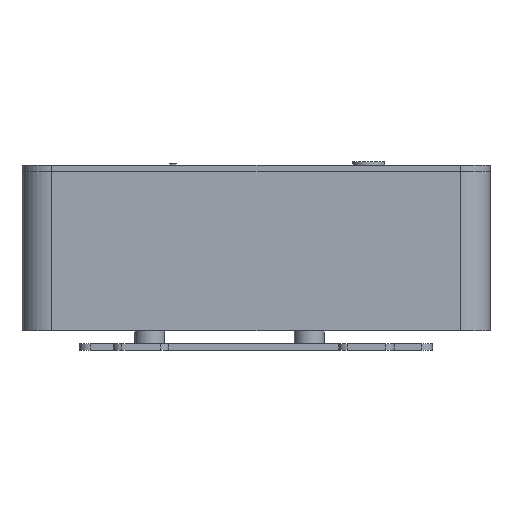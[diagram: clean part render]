
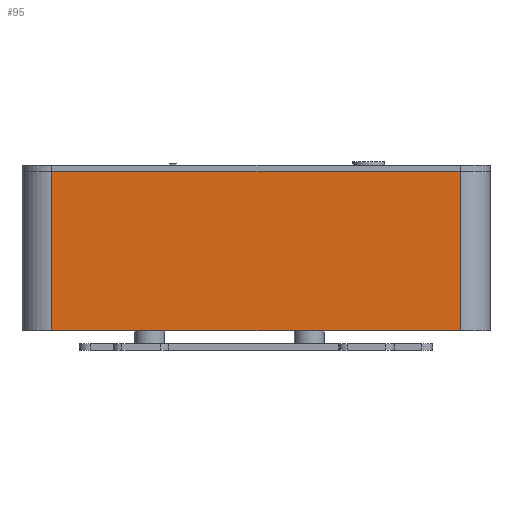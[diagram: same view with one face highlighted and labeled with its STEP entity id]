
A CAD part, left-side view. The second image highlights one B-rep face of the part: STEP entity #95.
In plain terms, the highlighted planar face has unit normal (-1, 0, 0).
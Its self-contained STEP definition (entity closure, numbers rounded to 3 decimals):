
#95 = ADVANCED_FACE('',(#96),#110,.F.);
#96 = FACE_BOUND('',#97,.F.);
#97 = EDGE_LOOP('',(#98,#133,#161,#189));
#98 = ORIENTED_EDGE('',*,*,#99,.F.);
#99 = EDGE_CURVE('',#100,#102,#104,.T.);
#100 = VERTEX_POINT('',#101);
#101 = CARTESIAN_POINT('',(0.,14.,75.));
#102 = VERTEX_POINT('',#103);
#103 = CARTESIAN_POINT('',(0.,206.,75.));
#104 = SURFACE_CURVE('',#105,(#109,#121),.PCURVE_S1.);
#105 = LINE('',#106,#107);
#106 = CARTESIAN_POINT('',(0.,0.,75.));
#107 = VECTOR('',#108,1.);
#108 = DIRECTION('',(0.,1.,0.));
#109 = PCURVE('',#110,#115);
#110 = PLANE('',#111);
#111 = AXIS2_PLACEMENT_3D('',#112,#113,#114);
#112 = CARTESIAN_POINT('',(0.,0.,0.));
#113 = DIRECTION('',(1.,0.,0.));
#114 = DIRECTION('',(0.,0.,1.));
#115 = DEFINITIONAL_REPRESENTATION('',(#116),#120);
#116 = LINE('',#117,#118);
#117 = CARTESIAN_POINT('',(75.,0.));
#118 = VECTOR('',#119,1.);
#119 = DIRECTION('',(0.,-1.));
#120 = ( GEOMETRIC_REPRESENTATION_CONTEXT(2) 
PARAMETRIC_REPRESENTATION_CONTEXT() REPRESENTATION_CONTEXT('2D SPACE',''
  ) );
#121 = PCURVE('',#122,#127);
#122 = PLANE('',#123);
#123 = AXIS2_PLACEMENT_3D('',#124,#125,#126);
#124 = CARTESIAN_POINT('',(0.,0.,75.));
#125 = DIRECTION('',(0.,0.,1.));
#126 = DIRECTION('',(1.,0.,0.));
#127 = DEFINITIONAL_REPRESENTATION('',(#128),#132);
#128 = LINE('',#129,#130);
#129 = CARTESIAN_POINT('',(0.,0.));
#130 = VECTOR('',#131,1.);
#131 = DIRECTION('',(0.,1.));
#132 = ( GEOMETRIC_REPRESENTATION_CONTEXT(2) 
PARAMETRIC_REPRESENTATION_CONTEXT() REPRESENTATION_CONTEXT('2D SPACE',''
  ) );
#133 = ORIENTED_EDGE('',*,*,#134,.F.);
#134 = EDGE_CURVE('',#135,#100,#137,.T.);
#135 = VERTEX_POINT('',#136);
#136 = CARTESIAN_POINT('',(0.,14.,0.));
#137 = SURFACE_CURVE('',#138,(#142,#149),.PCURVE_S1.);
#138 = LINE('',#139,#140);
#139 = CARTESIAN_POINT('',(0.,14.,0.));
#140 = VECTOR('',#141,1.);
#141 = DIRECTION('',(0.,0.,1.));
#142 = PCURVE('',#110,#143);
#143 = DEFINITIONAL_REPRESENTATION('',(#144),#148);
#144 = LINE('',#145,#146);
#145 = CARTESIAN_POINT('',(0.,-14.));
#146 = VECTOR('',#147,1.);
#147 = DIRECTION('',(1.,0.));
#148 = ( GEOMETRIC_REPRESENTATION_CONTEXT(2) 
PARAMETRIC_REPRESENTATION_CONTEXT() REPRESENTATION_CONTEXT('2D SPACE',''
  ) );
#149 = PCURVE('',#150,#155);
#150 = CYLINDRICAL_SURFACE('',#151,14.);
#151 = AXIS2_PLACEMENT_3D('',#152,#153,#154);
#152 = CARTESIAN_POINT('',(14.,14.,0.));
#153 = DIRECTION('',(0.,0.,1.));
#154 = DIRECTION('',(-1.,-0.,0.));
#155 = DEFINITIONAL_REPRESENTATION('',(#156),#160);
#156 = LINE('',#157,#158);
#157 = CARTESIAN_POINT('',(0.,0.));
#158 = VECTOR('',#159,1.);
#159 = DIRECTION('',(0.,1.));
#160 = ( GEOMETRIC_REPRESENTATION_CONTEXT(2) 
PARAMETRIC_REPRESENTATION_CONTEXT() REPRESENTATION_CONTEXT('2D SPACE',''
  ) );
#161 = ORIENTED_EDGE('',*,*,#162,.T.);
#162 = EDGE_CURVE('',#135,#163,#165,.T.);
#163 = VERTEX_POINT('',#164);
#164 = CARTESIAN_POINT('',(0.,206.,0.));
#165 = SURFACE_CURVE('',#166,(#170,#177),.PCURVE_S1.);
#166 = LINE('',#167,#168);
#167 = CARTESIAN_POINT('',(0.,0.,0.));
#168 = VECTOR('',#169,1.);
#169 = DIRECTION('',(0.,1.,0.));
#170 = PCURVE('',#110,#171);
#171 = DEFINITIONAL_REPRESENTATION('',(#172),#176);
#172 = LINE('',#173,#174);
#173 = CARTESIAN_POINT('',(0.,0.));
#174 = VECTOR('',#175,1.);
#175 = DIRECTION('',(0.,-1.));
#176 = ( GEOMETRIC_REPRESENTATION_CONTEXT(2) 
PARAMETRIC_REPRESENTATION_CONTEXT() REPRESENTATION_CONTEXT('2D SPACE',''
  ) );
#177 = PCURVE('',#178,#183);
#178 = PLANE('',#179);
#179 = AXIS2_PLACEMENT_3D('',#180,#181,#182);
#180 = CARTESIAN_POINT('',(0.,0.,0.));
#181 = DIRECTION('',(0.,0.,1.));
#182 = DIRECTION('',(1.,0.,0.));
#183 = DEFINITIONAL_REPRESENTATION('',(#184),#188);
#184 = LINE('',#185,#186);
#185 = CARTESIAN_POINT('',(0.,0.));
#186 = VECTOR('',#187,1.);
#187 = DIRECTION('',(0.,1.));
#188 = ( GEOMETRIC_REPRESENTATION_CONTEXT(2) 
PARAMETRIC_REPRESENTATION_CONTEXT() REPRESENTATION_CONTEXT('2D SPACE',''
  ) );
#189 = ORIENTED_EDGE('',*,*,#190,.T.);
#190 = EDGE_CURVE('',#163,#102,#191,.T.);
#191 = SURFACE_CURVE('',#192,(#196,#203),.PCURVE_S1.);
#192 = LINE('',#193,#194);
#193 = CARTESIAN_POINT('',(0.,206.,0.));
#194 = VECTOR('',#195,1.);
#195 = DIRECTION('',(0.,0.,1.));
#196 = PCURVE('',#110,#197);
#197 = DEFINITIONAL_REPRESENTATION('',(#198),#202);
#198 = LINE('',#199,#200);
#199 = CARTESIAN_POINT('',(0.,-206.));
#200 = VECTOR('',#201,1.);
#201 = DIRECTION('',(1.,0.));
#202 = ( GEOMETRIC_REPRESENTATION_CONTEXT(2) 
PARAMETRIC_REPRESENTATION_CONTEXT() REPRESENTATION_CONTEXT('2D SPACE',''
  ) );
#203 = PCURVE('',#204,#209);
#204 = CYLINDRICAL_SURFACE('',#205,14.);
#205 = AXIS2_PLACEMENT_3D('',#206,#207,#208);
#206 = CARTESIAN_POINT('',(14.,206.,0.));
#207 = DIRECTION('',(0.,0.,1.));
#208 = DIRECTION('',(-1.,-0.,0.));
#209 = DEFINITIONAL_REPRESENTATION('',(#210),#214);
#210 = LINE('',#211,#212);
#211 = CARTESIAN_POINT('',(-0.,0.));
#212 = VECTOR('',#213,1.);
#213 = DIRECTION('',(-0.,1.));
#214 = ( GEOMETRIC_REPRESENTATION_CONTEXT(2) 
PARAMETRIC_REPRESENTATION_CONTEXT() REPRESENTATION_CONTEXT('2D SPACE',''
  ) );
